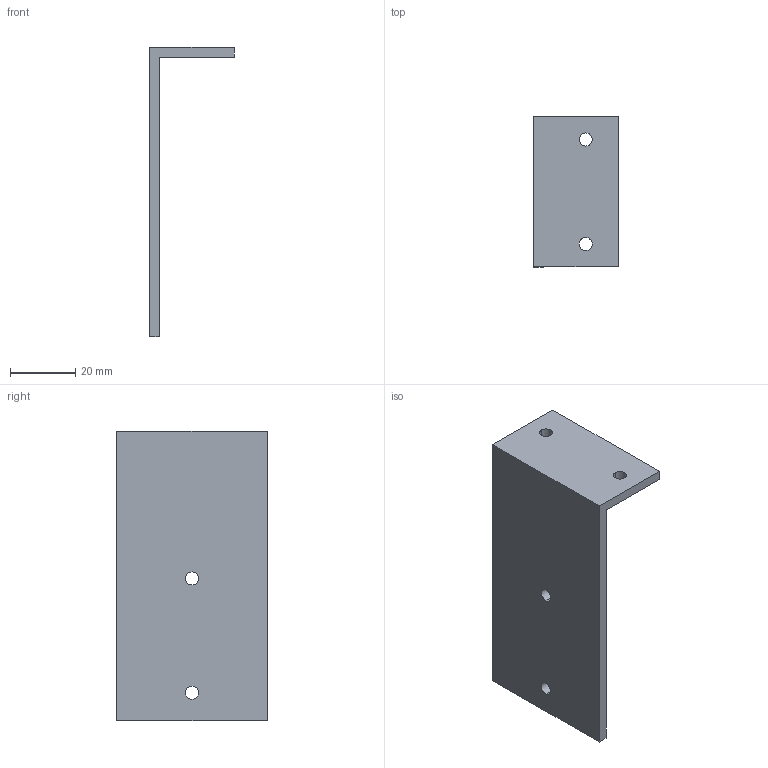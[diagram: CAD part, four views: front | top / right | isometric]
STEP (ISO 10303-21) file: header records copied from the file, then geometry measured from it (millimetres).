
FILE_DESCRIPTION (( 'STEP AP214' ), '1' );
FILE_NAME ('Haltewinkel_Sockellade.STEP', '2010-09-29T08:47:31', ( 'grass' ), ( '' ), 'SwSTEP 2.0', 'SolidWorks 2010', '' );
FILE_SCHEMA (( 'AUTOMOTIVE_DESIGN' ));
Length unit declared in the file: millimetre
Products named in the file (1): Haltewinkel_Sockellade
Bounding box: 26 x 46 x 88.5 mm (x, y, z)
Volume: 15236.2 mm3; surface area: 11253.3 mm2
Topology: 1 solids, 1 shells, 16 faces, 42 edges, 28 vertices
Faces by surface type: cylinder 8, plane 8
Entity records: 552 total; most frequent: DIRECTION 92, CARTESIAN_POINT 87, ORIENTED_EDGE 84, EDGE_CURVE 42, AXIS2_PLACEMENT_3D 33, VERTEX_POINT 28, VECTOR 26, LINE 26
